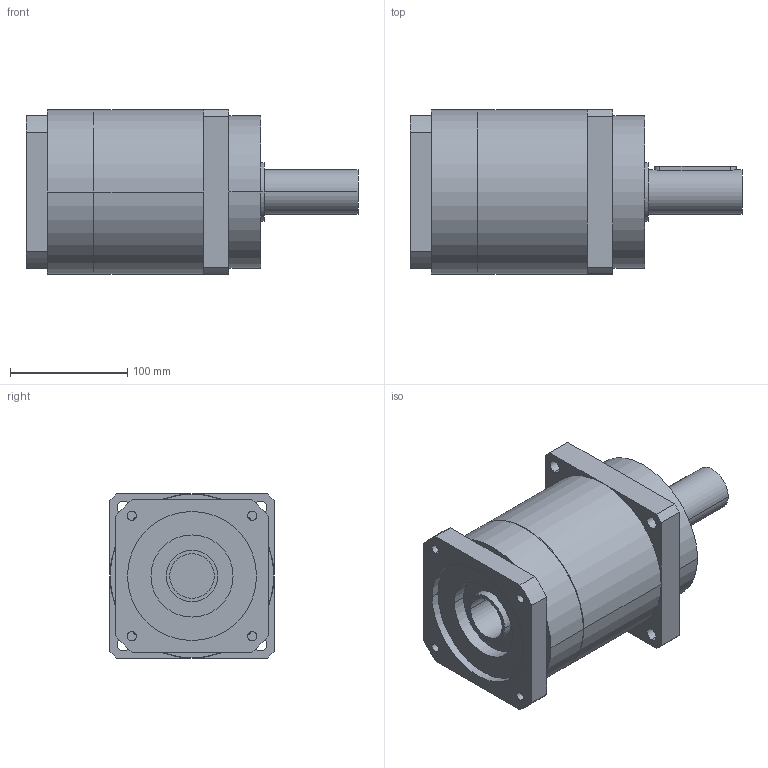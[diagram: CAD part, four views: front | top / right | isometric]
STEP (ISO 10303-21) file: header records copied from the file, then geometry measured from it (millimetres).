
FILE_DESCRIPTION(('CoCreate Modeling STEP Export'),'2;1');
FILE_NAME('GPR150_ig-3-4-5-7_38_B5_38_P08.stp','2014-08-19T16:43:31',(''),(''),'CoCreate Modeling STEP processor for AP214 (Solid Model)','CoCreate Modeling 16.00C 25-Feb-2009 (C) Parametric Technology GmbH','');
FILE_SCHEMA(('AUTOMOTIVE_DESIGN { 1 0 10303 214 1 1 1 1 }'));
Length unit declared in the file: millimetre
Products named in the file (2): GPR150_ig-3-4-5-7_38_B5_38_P08
Assembly tree (1 placements, depth 2):
  GPR150_ig-3-4-5-7_38_B5_38_P08
    GPR150_ig-3-4-5-7_38_B5_38_P08
Bounding box: 283 x 140 x 140 mm (x, y, z)
Volume: 3034701 mm3; surface area: 163109.6 mm2
Topology: 1 solids, 1 shells, 89 faces, 241 edges, 157 vertices
Faces by surface type: cylinder 46, plane 37, cone 6
Entity records: 2427 total; most frequent: ORIENTED_EDGE 478, CARTESIAN_POINT 441, DIRECTION 334, EDGE_CURVE 239, VERTEX_POINT 157, AXIS2_PLACEMENT_3D 122, EDGE_LOOP 110, VECTOR 90
